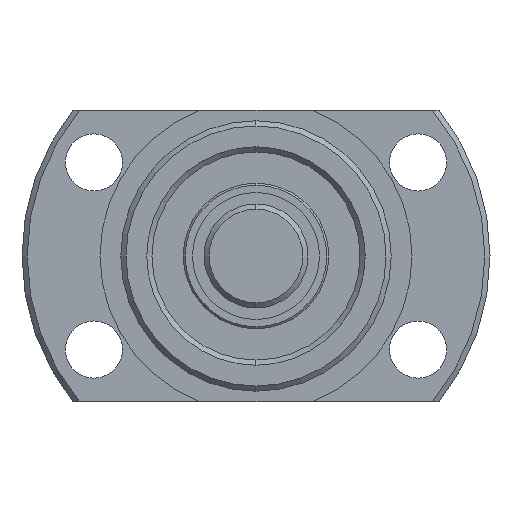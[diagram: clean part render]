
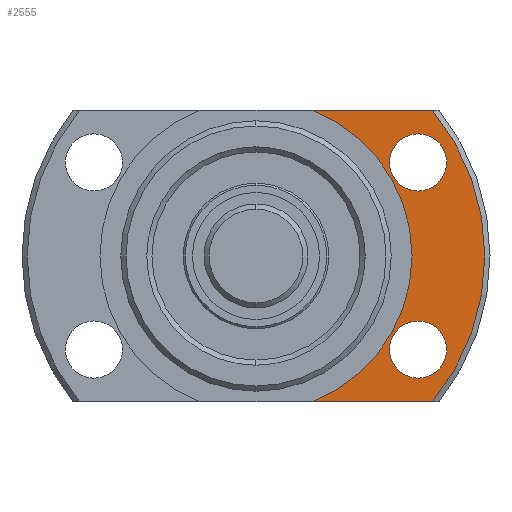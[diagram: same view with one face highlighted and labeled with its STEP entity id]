
A CAD part, left-side view. The second image highlights one B-rep face of the part: STEP entity #2555.
In plain terms, the highlighted planar face has unit normal (-1, 0, 0).
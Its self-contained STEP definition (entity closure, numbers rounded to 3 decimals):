
#132 = EDGE_LOOP ( 'NONE', ( #1967, #1966 ) ) ;
#136 = EDGE_LOOP ( 'NONE', ( #1965, #1964, #1963, #1962 ) ) ;
#137 = EDGE_LOOP ( 'NONE', ( #1969, #1968 ) ) ;
#399 = CARTESIAN_POINT ( 'NONE',  ( -6., -15.588, 6.25 ) ) ;
#418 = AXIS2_PLACEMENT_3D ( 'NONE', #2794, #2791, #2790 ) ;
#524 = EDGE_CURVE ( 'NONE', #2191, #1912, #1774, .T. ) ;
#635 = CARTESIAN_POINT ( 'NONE',  ( -6., -5.385, -14. ) ) ;
#637 = CARTESIAN_POINT ( 'NONE',  ( -6., -16.971, 14. ) ) ;
#828 = DIRECTION ( 'NONE',  ( -1., 0., 0. ) ) ;
#834 = CARTESIAN_POINT ( 'NONE',  ( -6., 22., 0. ) ) ;
#835 = PLANE ( 'NONE',  #3010 ) ;
#836 = DIRECTION ( 'NONE',  ( 0., 0., 1. ) ) ;
#1009 = CARTESIAN_POINT ( 'NONE',  ( -6., -5.385, 14. ) ) ;
#1034 = CARTESIAN_POINT ( 'NONE',  ( -6., -15.588, 11.75 ) ) ;
#1121 = EDGE_CURVE ( 'NONE', #2878, #1875, #1424, .T. ) ;
#1126 = EDGE_CURVE ( 'NONE', #1904, #1890, #1421, .T. ) ;
#1127 = EDGE_CURVE ( 'NONE', #1912, #2191, #1422, .T. ) ;
#1128 = EDGE_CURVE ( 'NONE', #2878, #2182, #1420, .T. ) ;
#1129 = EDGE_CURVE ( 'NONE', #2182, #2876, #1419, .T. ) ;
#1130 = EDGE_CURVE ( 'NONE', #2876, #1875, #1416, .T. ) ;
#1140 = EDGE_CURVE ( 'NONE', #1890, #1904, #1418, .T. ) ;
#1306 = FACE_BOUND ( 'NONE', #132, .T. ) ;
#1310 = FACE_OUTER_BOUND ( 'NONE', #136, .T. ) ;
#1315 = FACE_BOUND ( 'NONE', #137, .T. ) ;
#1414 = VECTOR ( 'NONE', #2619, 1000. ) ;
#1416 = LINE ( 'NONE', #2646, #1414 ) ;
#1417 = VECTOR ( 'NONE', #2618, 1000. ) ;
#1418 = CIRCLE ( 'NONE', #3066, 2.75 ) ;
#1419 = CIRCLE ( 'NONE', #3057, 15. ) ;
#1420 = LINE ( 'NONE', #2629, #1417 ) ;
#1421 = CIRCLE ( 'NONE', #3055, 2.75 ) ;
#1422 = CIRCLE ( 'NONE', #3056, 2.75 ) ;
#1424 = CIRCLE ( 'NONE', #3053, 22. ) ;
#1621 = CARTESIAN_POINT ( 'NONE',  ( -6., -15.588, -11.75 ) ) ;
#1774 = CIRCLE ( 'NONE', #418, 2.75 ) ;
#1875 = VERTEX_POINT ( 'NONE', #2601 ) ;
#1890 = VERTEX_POINT ( 'NONE', #1621 ) ;
#1904 = VERTEX_POINT ( 'NONE', #2649 ) ;
#1912 = VERTEX_POINT ( 'NONE', #1034 ) ;
#1962 = ORIENTED_EDGE ( 'NONE', *, *, #1130, .T. ) ;
#1963 = ORIENTED_EDGE ( 'NONE', *, *, #1129, .T. ) ;
#1964 = ORIENTED_EDGE ( 'NONE', *, *, #1128, .T. ) ;
#1965 = ORIENTED_EDGE ( 'NONE', *, *, #1121, .F. ) ;
#1966 = ORIENTED_EDGE ( 'NONE', *, *, #1127, .F. ) ;
#1967 = ORIENTED_EDGE ( 'NONE', *, *, #524, .F. ) ;
#1968 = ORIENTED_EDGE ( 'NONE', *, *, #1126, .F. ) ;
#1969 = ORIENTED_EDGE ( 'NONE', *, *, #1140, .F. ) ;
#2182 = VERTEX_POINT ( 'NONE', #1009 ) ;
#2191 = VERTEX_POINT ( 'NONE', #399 ) ;
#2555 = ADVANCED_FACE ( 'NONE', ( #1315, #1306, #1310 ), #835, .T. ) ;
#2598 = DIRECTION ( 'NONE',  ( 0., 0., 1. ) ) ;
#2599 = DIRECTION ( 'NONE',  ( -1., 0., 0. ) ) ;
#2600 = CARTESIAN_POINT ( 'NONE',  ( -6., -15.588, -9. ) ) ;
#2601 = CARTESIAN_POINT ( 'NONE',  ( -6., -16.971, -14. ) ) ;
#2605 = DIRECTION ( 'NONE',  ( -1., 0., 0. ) ) ;
#2613 = CARTESIAN_POINT ( 'NONE',  ( -6., -15.588, 9. ) ) ;
#2618 = DIRECTION ( 'NONE',  ( 0., 1., 0. ) ) ;
#2619 = DIRECTION ( 'NONE',  ( 0., -1., 0. ) ) ;
#2624 = DIRECTION ( 'NONE',  ( 0., 0., 1. ) ) ;
#2627 = CARTESIAN_POINT ( 'NONE',  ( -6., -15.588, -9. ) ) ;
#2628 = DIRECTION ( 'NONE',  ( 0., 0., 1. ) ) ;
#2629 = CARTESIAN_POINT ( 'NONE',  ( -6., 22., 14. ) ) ;
#2636 = DIRECTION ( 'NONE',  ( -1., 0., 0. ) ) ;
#2643 = DIRECTION ( 'NONE',  ( 0., 0., -1. ) ) ;
#2644 = DIRECTION ( 'NONE',  ( 1., 0., 0. ) ) ;
#2645 = CARTESIAN_POINT ( 'NONE',  ( -6., 0., 0. ) ) ;
#2646 = CARTESIAN_POINT ( 'NONE',  ( -6., 22., -14. ) ) ;
#2649 = CARTESIAN_POINT ( 'NONE',  ( -6., -15.588, -6.25 ) ) ;
#2790 = DIRECTION ( 'NONE',  ( 0., 0., 1. ) ) ;
#2791 = DIRECTION ( 'NONE',  ( -1., 0., 0. ) ) ;
#2794 = CARTESIAN_POINT ( 'NONE',  ( -6., -15.588, 9. ) ) ;
#2876 = VERTEX_POINT ( 'NONE', #635 ) ;
#2878 = VERTEX_POINT ( 'NONE', #637 ) ;
#2931 = CARTESIAN_POINT ( 'NONE',  ( -6., 0., 0. ) ) ;
#2933 = DIRECTION ( 'NONE',  ( 1., 0., 0. ) ) ;
#2936 = DIRECTION ( 'NONE',  ( 0., 0., -1. ) ) ;
#3010 = AXIS2_PLACEMENT_3D ( 'NONE', #834, #828, #836 ) ;
#3053 = AXIS2_PLACEMENT_3D ( 'NONE', #2931, #2933, #2936 ) ;
#3055 = AXIS2_PLACEMENT_3D ( 'NONE', #2627, #2636, #2624 ) ;
#3056 = AXIS2_PLACEMENT_3D ( 'NONE', #2613, #2605, #2628 ) ;
#3057 = AXIS2_PLACEMENT_3D ( 'NONE', #2645, #2644, #2643 ) ;
#3066 = AXIS2_PLACEMENT_3D ( 'NONE', #2600, #2599, #2598 ) ;
